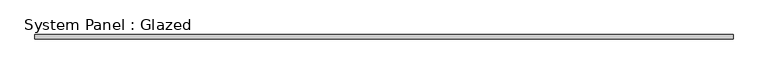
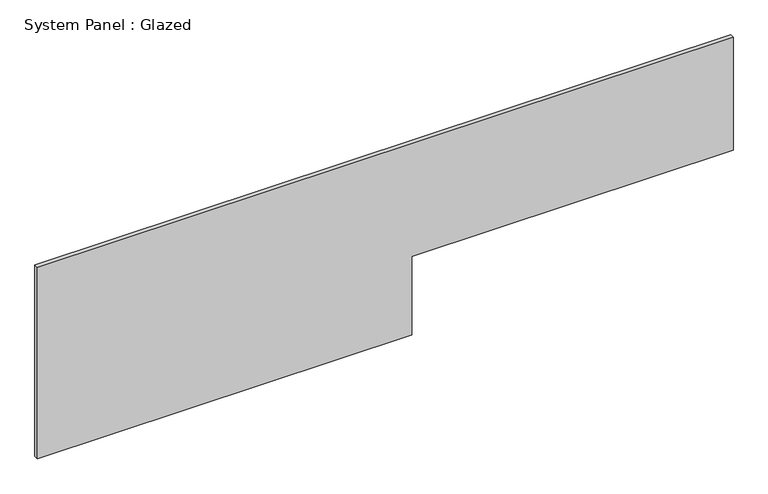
"""IFC4 building model written with IfcOpenShell, lengths in millimetres: plate geometry, System Panel : Glazed."""

from ifc_helpers import new_model, si_unit, frame, origin, place, context, project, spatial, polyline, outline, extrude, source, transform, mapped, element, save


def system_panel_glazed_457055d6(model_context):
    return source(origin(), model_context, "Body", "SweptSolid", [
        extrude(outline(polyline([(0.0, -1975.0), (0.0, 150.4869111), (473.4924443, 150.4869111), (473.4924443, 1975.0), (1150.0, 1975.0), (1150.0, -1975.0), (0.0, -1975.0)])), frame((0.0, 24.5, 0.0), z_axis=(0.0, 1.0, 0.0), x_axis=(0.0, 0.0, 1.0)), (0.0, 0.0, 1.0), 25.0),
    ])


if __name__ == "__main__":
    model = new_model("IFC4")
    model_context = context("Model", 3, world=origin())
    ifc_project = project(units=[si_unit("LENGTHUNIT", "METRE", prefix="MILLI")], contexts=[model_context])
    site = spatial("IfcSite", under=ifc_project)
    building = spatial("IfcBuilding", under=site)
    placement = place(None, origin())
    system_panel_glazed_shape = system_panel_glazed_457055d6(model_context)
    element("IfcPlate", 1, ObjectType="System Panel : Glazed", at=placement, inside=building, context=model_context, shape_type="MappedRepresentation", body=[
        mapped(system_panel_glazed_shape, transform((0.0, 0.0, 0.0), x_axis=(1.0, 0.0, 0.0), y_axis=(0.0, 1.0, 0.0), z_axis=(0.0, 0.0, 1.0))),
    ])
    save(model, "model.ifc")
